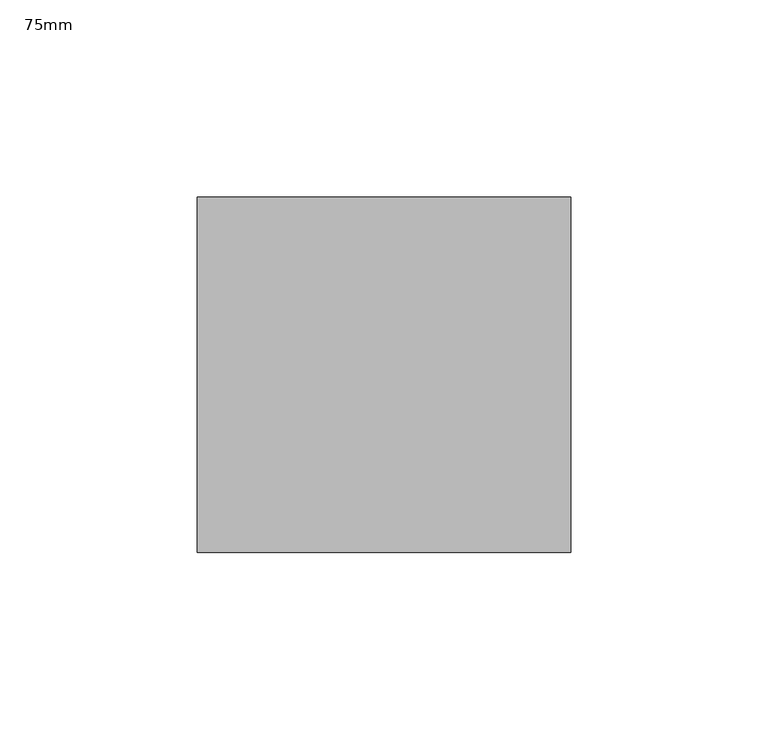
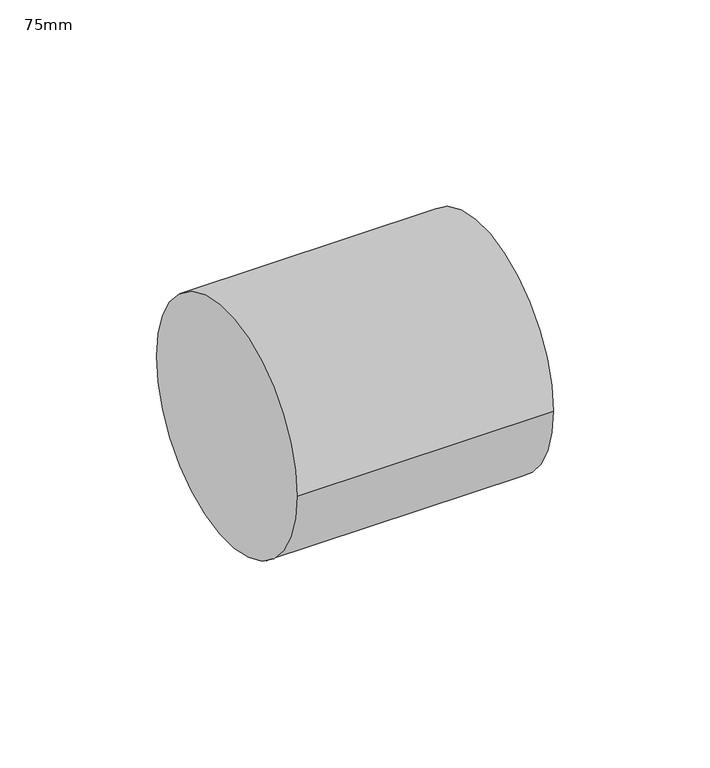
"""IFC4 building model written with IfcOpenShell, lengths in millimetres: pipe fitting geometry, PipeFitting_HTA_CPVC_Couplings : 75mm."""

from ifc_helpers import new_model, si_unit, point, frame, origin, origin_2d, place, context, project, spatial, circle_curve, trimmed, segment, composite_curve, outline, extrude, source, transform, mapped, element, save


def pipe_fitting_75mm_dd20a809(model_context):
    return source(origin(), model_context, "Body", "SweptSolid", [
        extrude(outline(composite_curve([segment(trimmed(circle_curve(origin_2d(), 45.0), [point((-45.0, 0.0))], [point((45.0, 0.0))], False, "CARTESIAN"), True, "CONTINUOUS"), segment(trimmed(circle_curve(origin_2d(), 45.0), [point((45.0, 0.0))], [point((-45.0, 0.0))], False, "CARTESIAN"), True, "CONTINUOUS")], self_intersect=False)), frame((-47.25, 0.0, 0.0), z_axis=(1.0, 0.0, 0.0), x_axis=(0.0, 1.0, 0.0)), (0.0, 0.0, 1.0), 94.5),
    ])


if __name__ == "__main__":
    model = new_model("IFC4")
    model_context = context("Model", 3, world=origin())
    ifc_project = project(units=[si_unit("LENGTHUNIT", "METRE", prefix="MILLI")], contexts=[model_context])
    site = spatial("IfcSite", under=ifc_project)
    building = spatial("IfcBuilding", under=site)
    placement = place(None, origin())
    pipe_fitting_75mm_shape = pipe_fitting_75mm_dd20a809(model_context)
    element("IfcPipeFitting", 1, ObjectType="PipeFitting_HTA_CPVC_Couplings : 75mm", at=placement, inside=building, context=model_context, shape_type="MappedRepresentation", body=[
        mapped(pipe_fitting_75mm_shape, transform((0.0, 0.0, 0.0), x_axis=(1.0, 0.0, 0.0), y_axis=(0.0, 1.0, 0.0), z_axis=(0.0, 0.0, 1.0))),
    ])
    save(model, "model.ifc")
